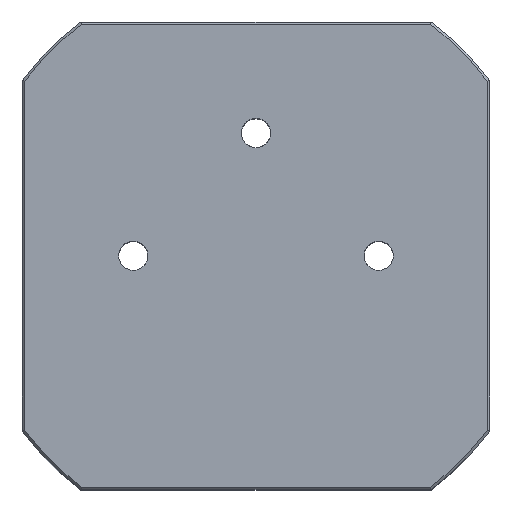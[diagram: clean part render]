
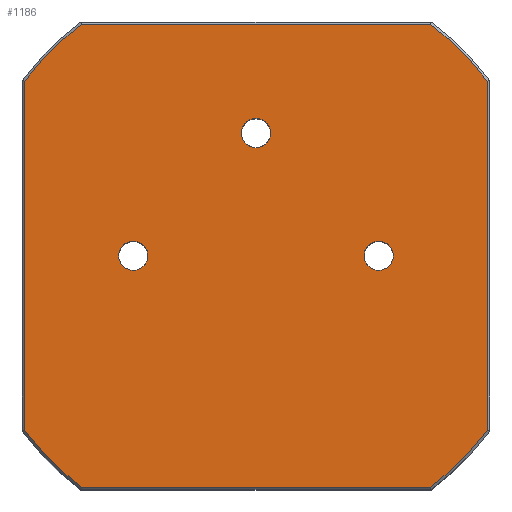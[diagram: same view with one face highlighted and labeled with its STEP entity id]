
A CAD part, top view. The second image highlights one B-rep face of the part: STEP entity #1186.
In plain terms, the highlighted planar face has unit normal (0, 0, 1).
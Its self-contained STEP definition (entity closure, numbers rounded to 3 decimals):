
#95=FACE_BOUND('',#271,.T.);
#96=FACE_BOUND('',#272,.T.);
#97=FACE_BOUND('',#273,.T.);
#115=PLANE('',#1341);
#197=FACE_OUTER_BOUND('',#270,.T.);
#270=EDGE_LOOP('',(#1065,#1066,#1067,#1068,#1069,#1070,#1071,#1072));
#271=EDGE_LOOP('',(#1073));
#272=EDGE_LOOP('',(#1074));
#273=EDGE_LOOP('',(#1075));
#306=LINE('',#1963,#353);
#309=LINE('',#1986,#356);
#313=LINE('',#2051,#360);
#324=LINE('',#2454,#371);
#353=VECTOR('',#1476,10.);
#356=VECTOR('',#1495,10.);
#360=VECTOR('',#1535,10.);
#371=VECTOR('',#1642,10.);
#405=CIRCLE('',#1262,1.25);
#406=CIRCLE('',#1264,24.8);
#409=CIRCLE('',#1270,24.8);
#412=CIRCLE('',#1276,24.8);
#418=CIRCLE('',#1290,24.8);
#425=CIRCLE('',#1305,1.25);
#426=CIRCLE('',#1309,1.25);
#496=VERTEX_POINT('',#1943);
#497=VERTEX_POINT('',#1947);
#498=VERTEX_POINT('',#1951);
#500=VERTEX_POINT('',#1959);
#503=VERTEX_POINT('',#1970);
#504=VERTEX_POINT('',#1974);
#506=VERTEX_POINT('',#1985);
#507=VERTEX_POINT('',#1991);
#516=VERTEX_POINT('',#2044);
#520=VERTEX_POINT('',#2071);
#543=VERTEX_POINT('',#2330);
#626=EDGE_CURVE('',#496,#496,#405,.T.);
#629=EDGE_CURVE('',#497,#498,#406,.T.);
#633=EDGE_CURVE('',#500,#497,#306,.T.);
#637=EDGE_CURVE('',#503,#504,#409,.T.);
#642=EDGE_CURVE('',#504,#506,#309,.T.);
#644=EDGE_CURVE('',#506,#507,#412,.T.);
#663=EDGE_CURVE('',#516,#500,#418,.T.);
#665=EDGE_CURVE('',#507,#516,#313,.T.);
#675=EDGE_CURVE('',#520,#520,#425,.T.);
#701=EDGE_CURVE('',#543,#543,#426,.T.);
#730=EDGE_CURVE('',#498,#503,#324,.T.);
#1065=ORIENTED_EDGE('',*,*,#629,.F.);
#1066=ORIENTED_EDGE('',*,*,#633,.F.);
#1067=ORIENTED_EDGE('',*,*,#663,.F.);
#1068=ORIENTED_EDGE('',*,*,#665,.F.);
#1069=ORIENTED_EDGE('',*,*,#644,.F.);
#1070=ORIENTED_EDGE('',*,*,#642,.F.);
#1071=ORIENTED_EDGE('',*,*,#637,.F.);
#1072=ORIENTED_EDGE('',*,*,#730,.F.);
#1073=ORIENTED_EDGE('',*,*,#626,.T.);
#1074=ORIENTED_EDGE('',*,*,#675,.T.);
#1075=ORIENTED_EDGE('',*,*,#701,.T.);
#1186=ADVANCED_FACE('',(#197,#95,#96,#97),#115,.T.);
#1262=AXIS2_PLACEMENT_3D('',#1944,#1465,#1466);
#1264=AXIS2_PLACEMENT_3D('',#1952,#1470,#1471);
#1270=AXIS2_PLACEMENT_3D('',#1975,#1484,#1485);
#1276=AXIS2_PLACEMENT_3D('',#1992,#1498,#1499);
#1290=AXIS2_PLACEMENT_3D('',#2048,#1529,#1530);
#1305=AXIS2_PLACEMENT_3D('',#2072,#1564,#1565);
#1309=AXIS2_PLACEMENT_3D('',#2331,#1575,#1576);
#1341=AXIS2_PLACEMENT_3D('',#2455,#1643,#1644);
#1465=DIRECTION('center_axis',(0.,0.,-1.));
#1466=DIRECTION('ref_axis',(1.,0.,0.));
#1470=DIRECTION('center_axis',(0.,0.,-1.));
#1471=DIRECTION('ref_axis',(1.,0.,0.));
#1476=DIRECTION('',(0.,-1.,0.));
#1484=DIRECTION('center_axis',(0.,0.,-1.));
#1485=DIRECTION('ref_axis',(-1.,0.,0.));
#1495=DIRECTION('',(0.,1.,0.));
#1498=DIRECTION('center_axis',(0.,0.,-1.));
#1499=DIRECTION('ref_axis',(-1.,0.,0.));
#1529=DIRECTION('center_axis',(0.,0.,-1.));
#1530=DIRECTION('ref_axis',(1.,0.,0.));
#1535=DIRECTION('',(1.,0.,0.));
#1564=DIRECTION('center_axis',(0.,0.,-1.));
#1565=DIRECTION('ref_axis',(1.,0.,0.));
#1575=DIRECTION('center_axis',(0.,0.,-1.));
#1576=DIRECTION('ref_axis',(1.,0.,0.));
#1642=DIRECTION('',(-1.,0.,0.));
#1643=DIRECTION('center_axis',(0.,0.,1.));
#1644=DIRECTION('ref_axis',(1.,0.,0.));
#1943=CARTESIAN_POINT('',(-11.75,0.,25.));
#1944=CARTESIAN_POINT('Origin',(-10.5,0.,25.));
#1947=CARTESIAN_POINT('',(19.8,-14.933,25.));
#1951=CARTESIAN_POINT('',(14.933,-19.8,25.));
#1952=CARTESIAN_POINT('Origin',(0.,0.,25.));
#1959=CARTESIAN_POINT('',(19.8,14.933,25.));
#1963=CARTESIAN_POINT('',(19.8,-10.,25.));
#1970=CARTESIAN_POINT('',(-14.933,-19.8,25.));
#1974=CARTESIAN_POINT('',(-19.8,-14.933,25.));
#1975=CARTESIAN_POINT('Origin',(0.,0.,25.));
#1985=CARTESIAN_POINT('',(-19.8,14.933,25.));
#1986=CARTESIAN_POINT('',(-19.8,10.,25.));
#1991=CARTESIAN_POINT('',(-14.933,19.8,25.));
#1992=CARTESIAN_POINT('Origin',(0.,0.,25.));
#2044=CARTESIAN_POINT('',(14.933,19.8,25.));
#2048=CARTESIAN_POINT('Origin',(0.,0.,25.));
#2051=CARTESIAN_POINT('',(10.,19.8,25.));
#2071=CARTESIAN_POINT('',(-1.25,10.5,25.));
#2072=CARTESIAN_POINT('Origin',(0.,10.5,25.));
#2330=CARTESIAN_POINT('',(9.25,0.,25.));
#2331=CARTESIAN_POINT('Origin',(10.5,0.,25.));
#2454=CARTESIAN_POINT('',(-10.,-19.8,25.));
#2455=CARTESIAN_POINT('Origin',(0.,0.,25.));
